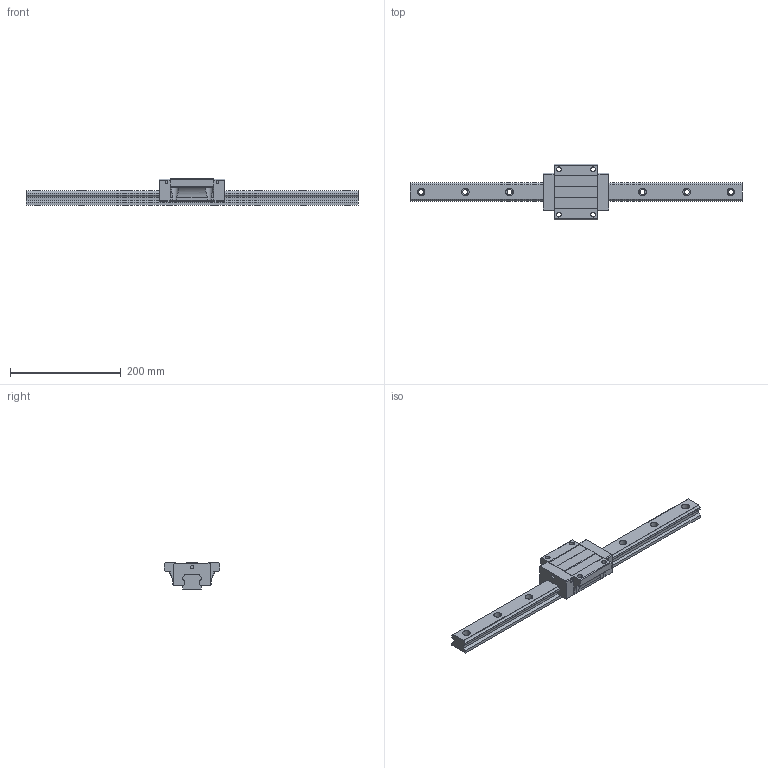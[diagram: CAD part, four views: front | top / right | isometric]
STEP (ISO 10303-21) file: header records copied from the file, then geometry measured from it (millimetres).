
FILE_DESCRIPTION (( 'STEP AP203' ), '1' );
FILE_NAME ('TRH35FN-ZN.STEP', '2024-05-14T08:20:18', ( '' ), ( '' ), 'SwSTEP 2.0', 'SolidWorks 2022', '' );
FILE_SCHEMA (( 'CONFIG_CONTROL_DESIGN' ));
Length unit declared in the file: millimetre
Products named in the file (1): TRH35FN-ZN
Bounding box: 600 x 100 x 48 mm (x, y, z)
Volume: 736759.7 mm3; surface area: 125075.5 mm2
Topology: 2 solids, 2 shells, 212 faces, 580 edges, 386 vertices
Faces by surface type: cylinder 112, plane 100
Entity records: 7521 total; most frequent: CARTESIAN_POINT 1873, DIRECTION 1174, ORIENTED_EDGE 1160, EDGE_CURVE 580, AXIS2_PLACEMENT_3D 409, VERTEX_POINT 386, LINE 356, VECTOR 356
